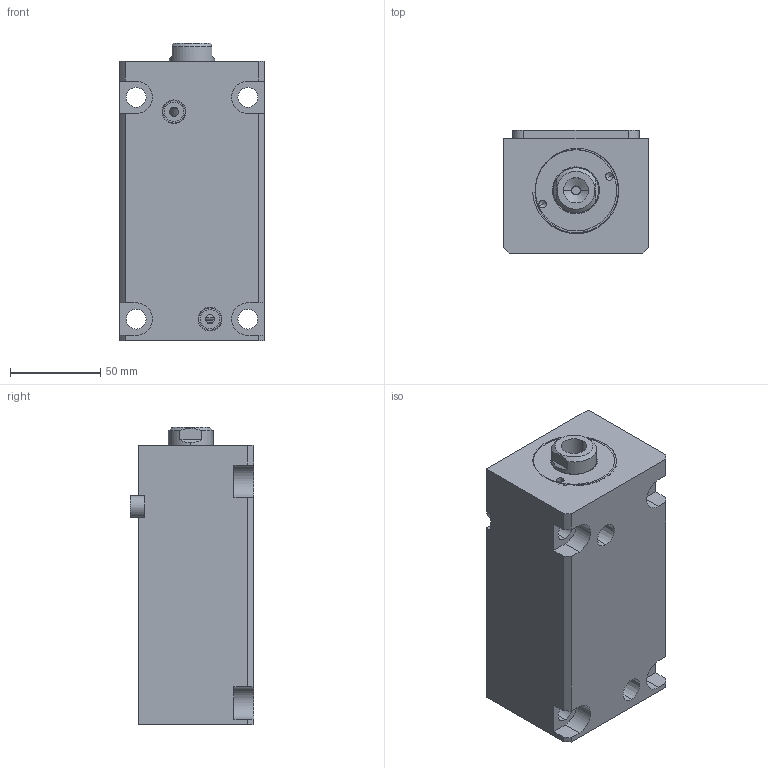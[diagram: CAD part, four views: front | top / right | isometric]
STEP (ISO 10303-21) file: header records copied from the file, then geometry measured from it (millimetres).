
FILE_DESCRIPTION (( 'STEP AP214' ), '1' );
FILE_NAME ('chtb-la40x100n_asm.STEP', '2018-05-31T02:13:43', ( 'Windows' ), ( 'Microsoft' ), 'SwSTEP 2.0', 'SolidWorks 2015', '' );
FILE_SCHEMA (( 'AUTOMOTIVE_DESIGN' ));
Length unit declared in the file: millimetre
Products named in the file (5): CHTB-SD40QG; CHTB-SD40X100NHSG; CHTB-LA40X100NBT; chtb-la40x100n_asm; CHTB-LA40PJ
Assembly tree (4 placements, depth 2):
  chtb-la40x100n_asm
    CHTB-LA40X100NBT
    CHTB-SD40X100NHSG
    CHTB-SD40QG
    CHTB-LA40PJ
Bounding box: 80 x 68.5 x 165 mm (x, y, z)
Volume: 677066.3 mm3; surface area: 114767.5 mm2
Topology: 4 solids, 4 shells, 160 faces, 430 edges, 286 vertices
Faces by surface type: cylinder 73, plane 48, bspline 14, cone 13, torus 12
Entity records: 10258 total; most frequent: CARTESIAN_POINT 6106, ORIENTED_EDGE 848, DIRECTION 787, EDGE_CURVE 424, AXIS2_PLACEMENT_3D 314, VERTEX_POINT 286, EDGE_LOOP 188, CIRCLE 161
